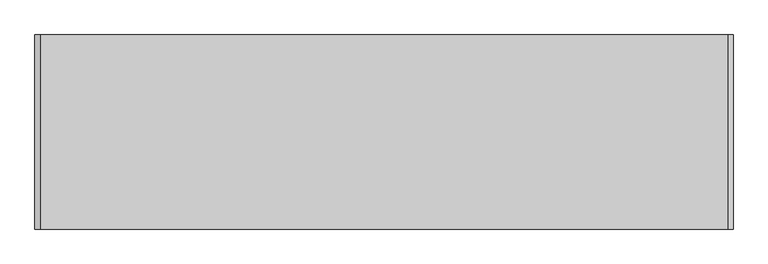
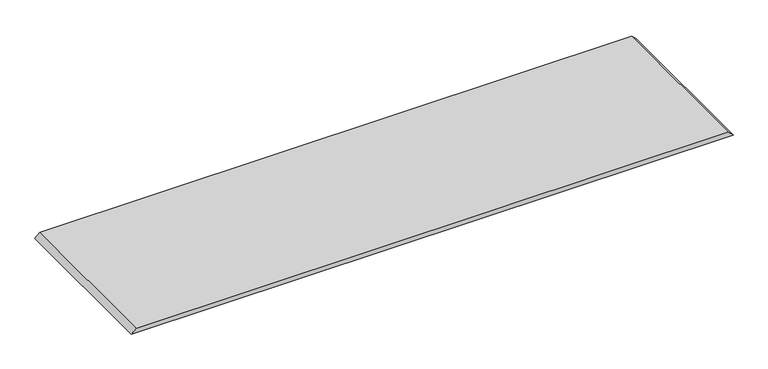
"""IFC4 building model written with IfcOpenShell, lengths in millimetres: proxy geometry, BASYS^CREDENZA 1_INTERNAL DETAILS-BACK."""

from ifc_helpers import new_model, si_unit, frame, origin, place, context, project, spatial, polyline, outline, extrude, source, transform, mapped, element, save


def generic_models_e2126484(model_context):
    return source(origin(), model_context, "Body", "SweptSolid", [
        extrude(outline(polyline([(-615.95, 2419.35), (-615.95, 19.05), (-635.0, 0.0), (-635.0, 2438.4), (-615.95, 2419.35)])), frame((0.0, -687.55, 0.0), z_axis=(0.0, 1.0, 0.0), x_axis=(0.0, 0.0, 1.0)), (0.0, 0.0, 1.0), 678.025),
    ])


if __name__ == "__main__":
    model = new_model("IFC4")
    model_context = context("Model", 3, world=origin())
    ifc_project = project(units=[si_unit("LENGTHUNIT", "METRE", prefix="MILLI")], contexts=[model_context])
    site = spatial("IfcSite", under=ifc_project)
    building = spatial("IfcBuilding", under=site)
    placement = place(None, origin())
    generic_models_shape = generic_models_e2126484(model_context)
    element("IfcBuildingElementProxy", 1, Name="BASYS^CREDENZA 1_INTERNAL DETAILS-BACK", ObjectType="BASYS^CREDENZA 1_INTERNAL DETAILS-BACK", at=placement, inside=building, context=model_context, shape_type="MappedRepresentation", body=[
        mapped(generic_models_shape, transform((0.0, 0.0, 0.0), x_axis=(1.0, 0.0, 0.0), y_axis=(0.0, 1.0, 0.0), z_axis=(0.0, 0.0, 1.0))),
    ])
    save(model, "model.ifc")
